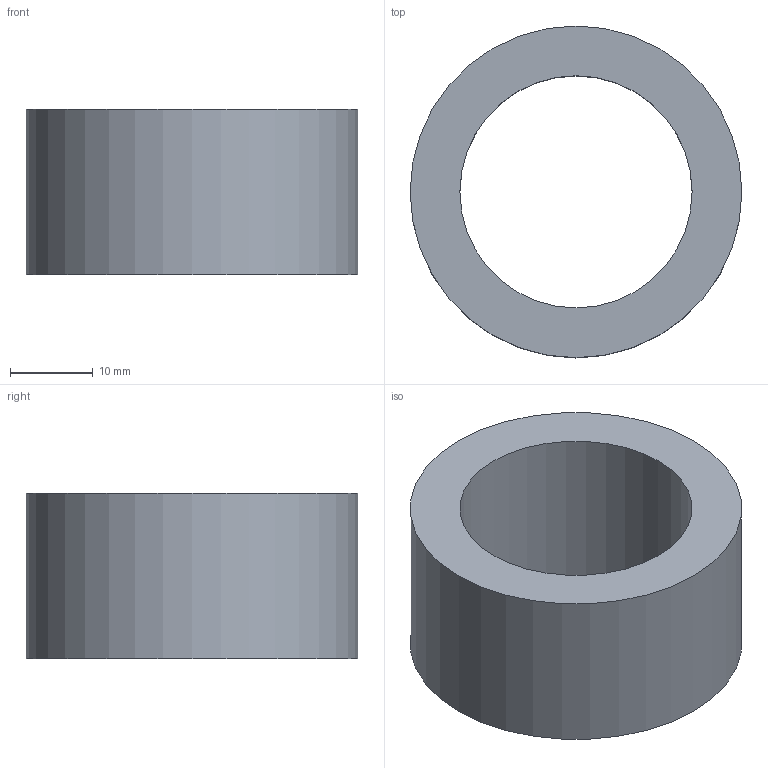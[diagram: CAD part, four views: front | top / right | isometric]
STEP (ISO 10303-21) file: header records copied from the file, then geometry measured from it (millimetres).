
FILE_DESCRIPTION(('Open CASCADE Model'),'2;1');
FILE_NAME('Open CASCADE Shape Model','2026-10-19T10:09:27',('Author'),( 'Open CASCADE'),'Open CASCADE STEP processor 8.0','Open CASCADE 8.0' ,'Unknown');
FILE_SCHEMA(('AUTOMOTIVE_DESIGN { 1 0 10303 214 1 1 1 1 }'));
Length unit declared in the file: millimetre
Products named in the file (1): AC_RODILLO_GUIA_D40_L20_REF 186
Bounding box: 40 x 40 x 20 mm (x, y, z)
Volume: 12817.7 mm3; surface area: 5554.3 mm2
Topology: 1 solids, 1 shells, 4 faces, 6 edges, 4 vertices
Faces by surface type: cylinder 2, plane 2
Full cylindrical faces by diameter (mm): 28 x1, 40 x1
Entity records: 186 total; most frequent: DIRECTION 32, CARTESIAN_POINT 27, ORIENTED_EDGE 12, PCURVE 12, DEFINITIONAL_REPRESENTATION 12, LINE 10, VECTOR 10, AXIS2_PLACEMENT_3D 9
